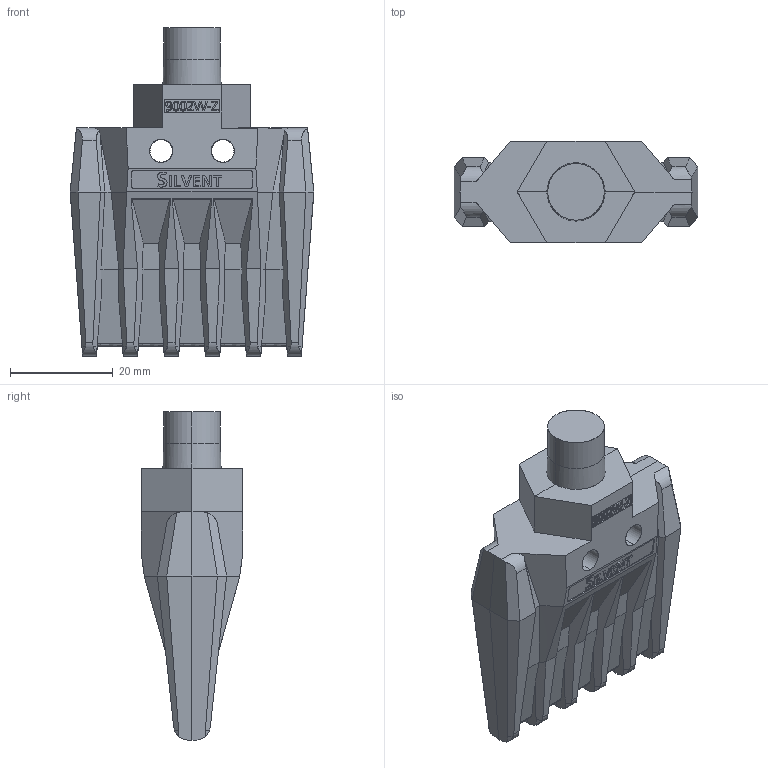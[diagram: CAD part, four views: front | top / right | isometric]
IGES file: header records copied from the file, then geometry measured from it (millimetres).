
Start section: SolidWorks IGES file using analytic representation for surfaces
Global section: file name: C:\PDMVault\Import\WEB CAD\SILVENT_9002W-Z_IGS.IGS; native system: SolidWorks 2021; preprocessor: SolidWorks 2021; author: a.olander; date: 221122.133313; units: millimetre
Bounding box: 47.46 x 19.8 x 64 mm (x, y, z)
Surface area: 7857.9 mm2 (no closed solid volume)
Topology: 0 solids, 0 shells, 583 faces, 4692 edges, 4692 vertices
Faces by surface type: bspline 529, revolution 54
